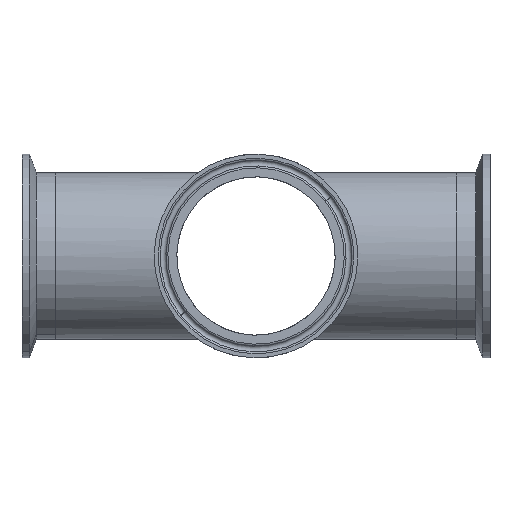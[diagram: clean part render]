
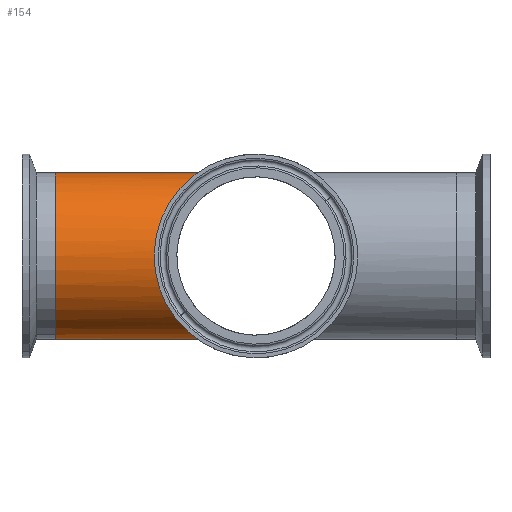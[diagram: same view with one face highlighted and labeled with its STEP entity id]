
A CAD part, left-side view. The second image highlights one B-rep face of the part: STEP entity #154.
In plain terms, the highlighted cylindrical face has radius 31.75 mm (diameter 63.5 mm), a partial arc.
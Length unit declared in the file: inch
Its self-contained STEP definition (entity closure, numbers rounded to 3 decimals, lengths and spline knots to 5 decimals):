
#50 = CARTESIAN_POINT ( 'NONE',  ( 0., 3., 1.25 ) ) ;
#106 = CARTESIAN_POINT ( 'NONE',  ( 0., 0., -1.25 ) ) ;
#136 = DIRECTION ( 'NONE',  ( 0., 0., 1. ) ) ;
#154 = ADVANCED_FACE ( 'NONE', ( #1160 ), #204, .T. ) ;
#164 = VERTEX_POINT ( 'NONE', #293 ) ;
#204 = CYLINDRICAL_SURFACE ( 'NONE', #556, 1.25 ) ;
#254 = EDGE_CURVE ( 'NONE', #164, #1027, #888, .T. ) ;
#286 = ORIENTED_EDGE ( 'NONE', *, *, #558, .F. ) ;
#293 = CARTESIAN_POINT ( 'NONE',  ( 0., 3., -1.25 ) ) ;
#308 = DIRECTION ( 'NONE',  ( 0., -1., 0. ) ) ;
#311 =( BOUNDED_CURVE ( )  B_SPLINE_CURVE ( 3, ( #368, #1197, #1217, #341 ),
 .UNSPECIFIED., .F., .T. ) 
 B_SPLINE_CURVE_WITH_KNOTS ( ( 4, 4 ),
 ( 1.5708, 4.71239 ),
 .UNSPECIFIED. ) 
 CURVE ( )  GEOMETRIC_REPRESENTATION_ITEM ( )  RATIONAL_B_SPLINE_CURVE ( ( 1., 0.333, 0.333, 1. ) ) 
 REPRESENTATION_ITEM ( '' )  );
#341 = CARTESIAN_POINT ( 'NONE',  ( 0., 0., -1.25 ) ) ;
#368 = CARTESIAN_POINT ( 'NONE',  ( 0., 0., 1.25 ) ) ;
#428 = VERTEX_POINT ( 'NONE', #463 ) ;
#463 = CARTESIAN_POINT ( 'NONE',  ( 0., 3., 1.25 ) ) ;
#470 = LINE ( 'NONE', #50, #1240 ) ;
#531 = ORIENTED_EDGE ( 'NONE', *, *, #1234, .F. ) ;
#556 = AXIS2_PLACEMENT_3D ( 'NONE', #1390, #308, #639 ) ;
#558 = EDGE_CURVE ( 'NONE', #1266, #1027, #311, .T. ) ;
#569 = DIRECTION ( 'NONE',  ( 0., -1., 0. ) ) ;
#570 = CARTESIAN_POINT ( 'NONE',  ( 0., 0., 1.25 ) ) ;
#629 = EDGE_LOOP ( 'NONE', ( #531, #958, #650, #286 ) ) ;
#639 = DIRECTION ( 'NONE',  ( 0., 0., -1. ) ) ;
#650 = ORIENTED_EDGE ( 'NONE', *, *, #254, .T. ) ;
#668 = DIRECTION ( 'NONE',  ( 0., 1., 0. ) ) ;
#672 = CARTESIAN_POINT ( 'NONE',  ( 0., 3., 0. ) ) ;
#888 = LINE ( 'NONE', #1184, #942 ) ;
#942 = VECTOR ( 'NONE', #569, 39.37008 ) ;
#958 = ORIENTED_EDGE ( 'NONE', *, *, #1135, .F. ) ;
#1027 = VERTEX_POINT ( 'NONE', #106 ) ;
#1135 = EDGE_CURVE ( 'NONE', #164, #428, #1359, .T. ) ;
#1160 = FACE_OUTER_BOUND ( 'NONE', #629, .T. ) ;
#1184 = CARTESIAN_POINT ( 'NONE',  ( 0., 3., -1.25 ) ) ;
#1197 = CARTESIAN_POINT ( 'NONE',  ( -2.5, 2.5, 1.25 ) ) ;
#1217 = CARTESIAN_POINT ( 'NONE',  ( -2.5, 2.5, -1.25 ) ) ;
#1234 = EDGE_CURVE ( 'NONE', #428, #1266, #470, .T. ) ;
#1240 = VECTOR ( 'NONE', #1316, 39.37008 ) ;
#1266 = VERTEX_POINT ( 'NONE', #570 ) ;
#1286 = AXIS2_PLACEMENT_3D ( 'NONE', #672, #668, #136 ) ;
#1316 = DIRECTION ( 'NONE',  ( 0., -1., 0. ) ) ;
#1359 = CIRCLE ( 'NONE', #1286, 1.25 ) ;
#1390 = CARTESIAN_POINT ( 'NONE',  ( 0., 3., 0. ) ) ;
